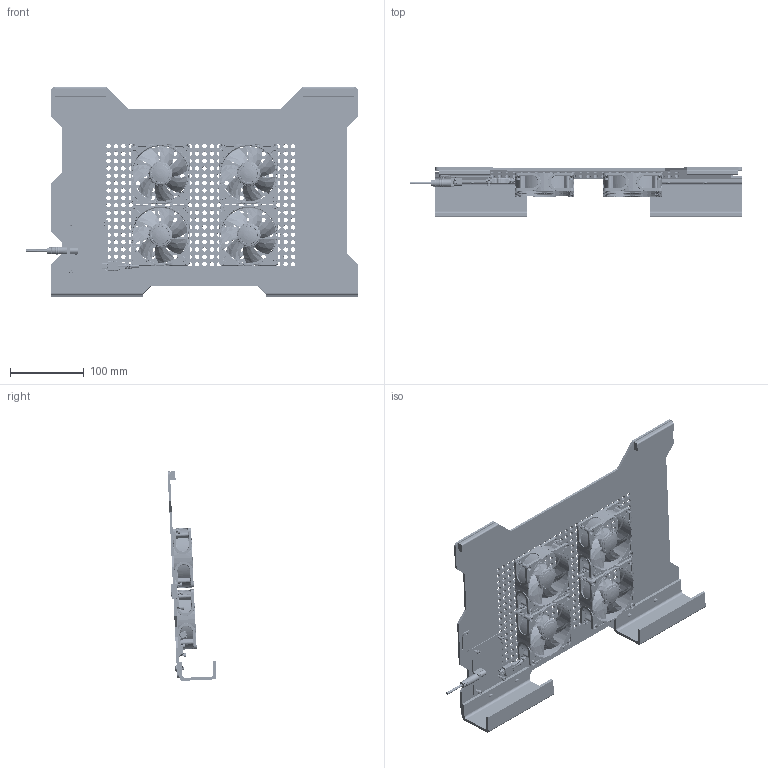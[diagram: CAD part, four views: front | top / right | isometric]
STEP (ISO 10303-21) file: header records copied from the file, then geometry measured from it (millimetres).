
FILE_DESCRIPTION(('CATIA V5 STEP Exchange'),'2;1');
FILE_NAME('C:\Users\Propietario\Dropbox\MASTDWG\5-dwg\50007.stp','2016-07-20T23:53:22+00:00',('none'),('none'),'CATIA Version 5 Release 18 GA (IN-10)','CATIA V5 STEP AP203','none');
FILE_SCHEMA(('CONFIG_CONTROL_DESIGN'));
Products named in the file (2): 50007; Product2
Assembly tree (40 placements, depth 3):
  50007
    #56
    #31419  x4
    #128133
    #128723
    #129287  x4
    #139582
    Product2
      #146048
      #146483
      #148166
    #165582
    #172544
    #187550  x2
    #187860  x20
Bounding box: 449.92 x 66.27 x 284.28 mm (x, y, z)
Volume: 405355.3 mm3; surface area: 484900 mm2
Topology: 37 solids, 3657 shells, 14288 faces, 68976 edges, 58380 vertices
Faces by surface type: bspline 7508, cylinder 4597, plane 1613, cone 414, torus 86, revolution 50, sphere 20
Entity records: 196698 total; most frequent: CARTESIAN_POINT 83624, ORIENTED_EDGE 26296, EDGE_CURVE 18302, VERTEX_POINT 15373, DIRECTION 10516, B_SPLINE_CURVE_WITH_KNOTS 10202, EDGE_LOOP 4989, AXIS2_PLACEMENT_3D 4749
